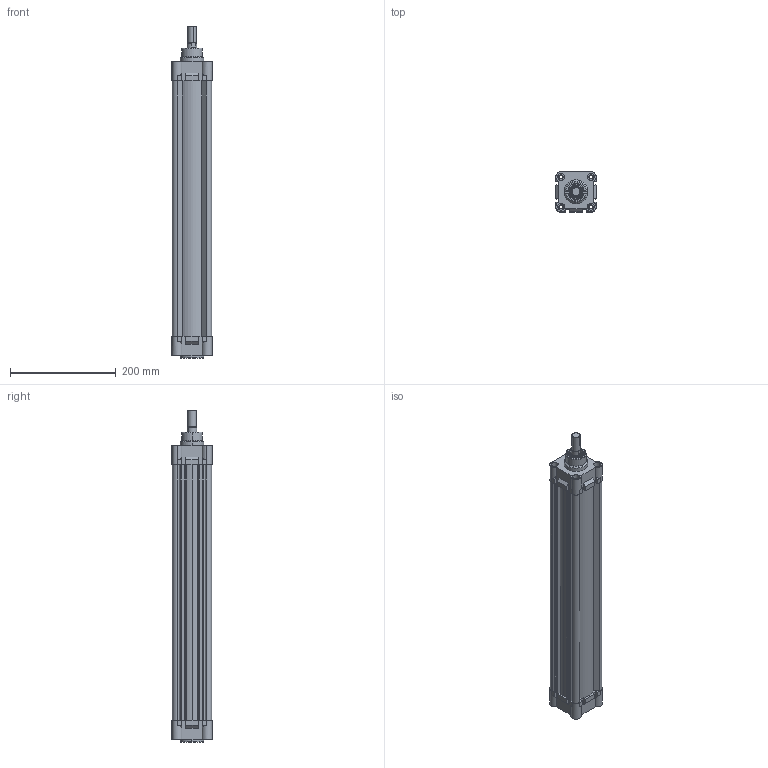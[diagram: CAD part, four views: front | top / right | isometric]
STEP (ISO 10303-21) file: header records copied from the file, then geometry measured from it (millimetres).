
FILE_DESCRIPTION (( 'STEP AP214' ), '1' );
FILE_NAME ('RIC_63_450_WEB.STEP', '2020-07-18T16:36:47', ( '' ), ( '' ), 'SwSTEP 2.0', 'SolidWorks 2018', '' );
FILE_SCHEMA (( 'AUTOMOTIVE_DESIGN' ));
Length unit declared in the file: millimetre
Products named in the file (7): ric63arkakapak; 20_K_MIL_WEB; 63_BORU_WEB; ric63bogazkecesi; ric63onkapak; ric63yastikkecesi; RIC_63_450_WEB
Assembly tree (7 placements, depth 2):
  RIC_63_450_WEB
    63_BORU_WEB
    ric63onkapak
    ric63arkakapak
    ric63bogazkecesi
    ric63yastikkecesi  x2
    20_K_MIL_WEB
Bounding box: 76 x 76 x 628 mm (x, y, z)
Volume: 1136122 mm3; surface area: 406209.7 mm2
Topology: 7 solids, 7 shells, 709 faces, 1751 edges, 1102 vertices
Faces by surface type: plane 280, cylinder 220, torus 134, cone 56, bspline 19
Entity records: 21075 total; most frequent: CARTESIAN_POINT 4906, DIRECTION 3090, ORIENTED_EDGE 2910, EDGE_CURVE 1455, AXIS2_PLACEMENT_3D 1135, VERTEX_POINT 925, VECTOR 820, LINE 820
